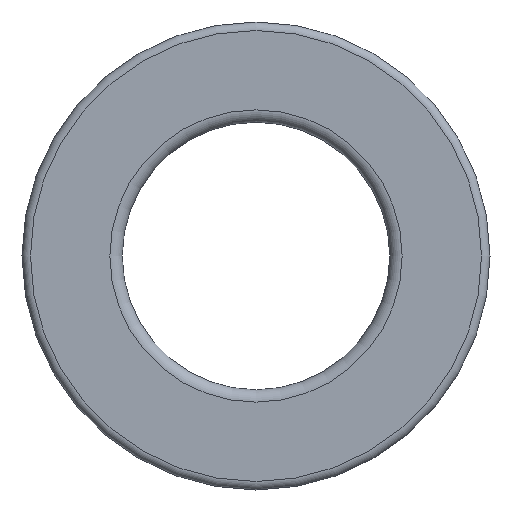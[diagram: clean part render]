
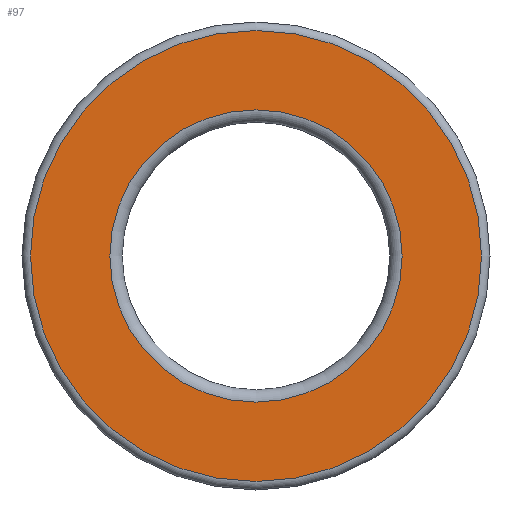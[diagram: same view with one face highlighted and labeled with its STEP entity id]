
A CAD part, left-side view. The second image highlights one B-rep face of the part: STEP entity #97.
In plain terms, the highlighted planar face has unit normal (-1, 0, 0).
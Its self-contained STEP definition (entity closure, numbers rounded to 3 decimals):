
#97=ADVANCED_FACE('',(#166,#167),#168,.F.);
#166=FACE_BOUND('',#238,.T.);
#167=FACE_OUTER_BOUND('',#239,.T.);
#168=PLANE('',#240);
#238=EDGE_LOOP('',(#354));
#239=EDGE_LOOP('',(#355));
#240=AXIS2_PLACEMENT_3D('',#356,#357,#358);
#354=ORIENTED_EDGE('',*,*,#386,.F.);
#355=ORIENTED_EDGE('',*,*,#387,.T.);
#356=CARTESIAN_POINT('',(0.0,10.119,0.0));
#357=DIRECTION('',(1.0,0.0,0.0));
#358=DIRECTION('',(0.0,0.0,-1.0));
#386=EDGE_CURVE('',#432,#432,#433,.T.);
#387=EDGE_CURVE('',#434,#434,#435,.T.);
#432=VERTEX_POINT('',#480);
#433=CIRCLE('',#481,6.558);
#434=VERTEX_POINT('',#482);
#435=CIRCLE('',#483,10.119);
#480=CARTESIAN_POINT('',(0.0,0.0,6.558));
#481=AXIS2_PLACEMENT_3D('',#550,#551,#552);
#482=CARTESIAN_POINT('',(0.0,0.0,10.119));
#483=AXIS2_PLACEMENT_3D('',#553,#554,#555);
#550=CARTESIAN_POINT('',(0.0,0.0,0.0));
#551=DIRECTION('',(-1.0,0.0,0.0));
#552=DIRECTION('',(0.0,0.0,1.0));
#553=CARTESIAN_POINT('',(0.0,0.0,0.0));
#554=DIRECTION('',(-1.0,0.0,0.0));
#555=DIRECTION('',(0.0,0.0,1.0));
